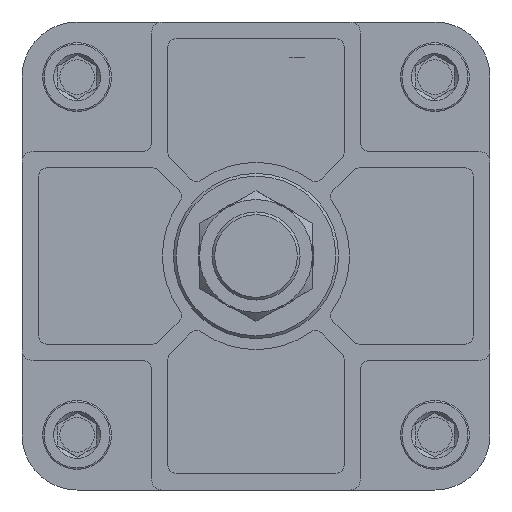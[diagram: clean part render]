
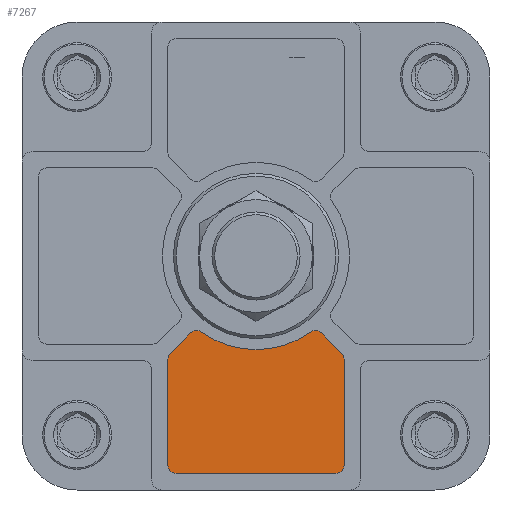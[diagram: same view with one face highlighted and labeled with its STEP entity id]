
A CAD part, front view. The second image highlights one B-rep face of the part: STEP entity #7267.
In plain terms, the highlighted planar face has unit normal (0, -1, 0).
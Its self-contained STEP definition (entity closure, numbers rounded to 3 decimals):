
#264=LINE('',#10013,#704);
#265=LINE('',#10022,#705);
#266=LINE('',#10026,#706);
#267=LINE('',#10030,#707);
#268=LINE('',#10034,#708);
#704=VECTOR('',#8298,1000.);
#705=VECTOR('',#8305,1000.);
#706=VECTOR('',#8308,1000.);
#707=VECTOR('',#8311,1000.);
#708=VECTOR('',#8314,1000.);
#1157=ORIENTED_EDGE('',*,*,#2686,.F.);
#1158=ORIENTED_EDGE('',*,*,#2687,.T.);
#1159=ORIENTED_EDGE('',*,*,#2688,.F.);
#1160=ORIENTED_EDGE('',*,*,#2689,.T.);
#1161=ORIENTED_EDGE('',*,*,#2690,.F.);
#1162=ORIENTED_EDGE('',*,*,#2691,.T.);
#1163=ORIENTED_EDGE('',*,*,#2692,.F.);
#1164=ORIENTED_EDGE('',*,*,#2693,.T.);
#1165=ORIENTED_EDGE('',*,*,#2694,.F.);
#1166=ORIENTED_EDGE('',*,*,#2695,.T.);
#1167=ORIENTED_EDGE('',*,*,#2696,.F.);
#1168=ORIENTED_EDGE('',*,*,#2697,.T.);
#2686=EDGE_CURVE('',#3453,#3454,#264,.T.);
#2687=EDGE_CURVE('',#3453,#3455,#3982,.F.);
#2688=EDGE_CURVE('',#3456,#3455,#3983,.T.);
#2689=EDGE_CURVE('',#3456,#3457,#3984,.F.);
#2690=EDGE_CURVE('',#3458,#3457,#265,.T.);
#2691=EDGE_CURVE('',#3458,#3459,#3985,.F.);
#2692=EDGE_CURVE('',#3460,#3459,#266,.T.);
#2693=EDGE_CURVE('',#3460,#3461,#3986,.F.);
#2694=EDGE_CURVE('',#3462,#3461,#267,.T.);
#2695=EDGE_CURVE('',#3462,#3463,#3987,.F.);
#2696=EDGE_CURVE('',#3464,#3463,#268,.T.);
#2697=EDGE_CURVE('',#3464,#3454,#3988,.F.);
#3453=VERTEX_POINT('',#10014);
#3454=VERTEX_POINT('',#10015);
#3455=VERTEX_POINT('',#10017);
#3456=VERTEX_POINT('',#10019);
#3457=VERTEX_POINT('',#10021);
#3458=VERTEX_POINT('',#10023);
#3459=VERTEX_POINT('',#10025);
#3460=VERTEX_POINT('',#10027);
#3461=VERTEX_POINT('',#10029);
#3462=VERTEX_POINT('',#10031);
#3463=VERTEX_POINT('',#10033);
#3464=VERTEX_POINT('',#10035);
#3982=CIRCLE('',#7635,3.);
#3983=CIRCLE('',#7636,34.);
#3984=CIRCLE('',#7637,3.);
#3985=CIRCLE('',#7638,3.);
#3986=CIRCLE('',#7639,3.);
#3987=CIRCLE('',#7640,3.);
#3988=CIRCLE('',#7641,3.);
#4285=EDGE_LOOP('',(#1157,#1158,#1159,#1160,#1161,#1162,#1163,#1164,#1165,
#1166,#1167,#1168));
#4729=FACE_BOUND('',#4285,.T.);
#5163=PLANE('',#7634);
#7267=ADVANCED_FACE('',(#4729),#5163,.F.);
#7634=AXIS2_PLACEMENT_3D('',#10012,#8296,#8297);
#7635=AXIS2_PLACEMENT_3D('',#10016,#8299,#8300);
#7636=AXIS2_PLACEMENT_3D('',#10018,#8301,#8302);
#7637=AXIS2_PLACEMENT_3D('',#10020,#8303,#8304);
#7638=AXIS2_PLACEMENT_3D('',#10024,#8306,#8307);
#7639=AXIS2_PLACEMENT_3D('',#10028,#8309,#8310);
#7640=AXIS2_PLACEMENT_3D('',#10032,#8312,#8313);
#7641=AXIS2_PLACEMENT_3D('',#10036,#8315,#8316);
#8296=DIRECTION('',(0.,1.,0.));
#8297=DIRECTION('',(0.,0.,1.));
#8298=DIRECTION('',(0.707,0.,-0.707));
#8299=DIRECTION('',(0.,1.,0.));
#8300=DIRECTION('',(0.,0.,1.));
#8301=DIRECTION('',(0.,-1.,0.));
#8302=DIRECTION('',(1.,0.,0.));
#8303=DIRECTION('',(0.,1.,0.));
#8304=DIRECTION('',(0.,0.,1.));
#8305=DIRECTION('',(0.707,0.,0.707));
#8306=DIRECTION('',(0.,1.,0.));
#8307=DIRECTION('',(0.,0.,1.));
#8308=DIRECTION('',(0.,0.,1.));
#8309=DIRECTION('',(0.,1.,0.));
#8310=DIRECTION('',(0.,0.,1.));
#8311=DIRECTION('',(-1.,0.,0.));
#8312=DIRECTION('',(0.,1.,0.));
#8313=DIRECTION('',(0.,0.,1.));
#8314=DIRECTION('',(0.,0.,-1.));
#8315=DIRECTION('',(0.,1.,0.));
#8316=DIRECTION('',(0.,0.,1.));
#10012=CARTESIAN_POINT('',(0.,-29.,0.));
#10013=CARTESIAN_POINT('',(21.827,-29.,-26.069));
#10014=CARTESIAN_POINT('',(23.695,-29.,-27.938));
#10015=CARTESIAN_POINT('',(31.121,-29.,-35.364));
#10016=CARTESIAN_POINT('',(21.574,-29.,-30.059));
#10017=CARTESIAN_POINT('',(19.825,-29.,-27.622));
#10018=CARTESIAN_POINT('',(0.,-29.,0.));
#10019=CARTESIAN_POINT('',(-19.825,-29.,-27.622));
#10020=CARTESIAN_POINT('',(-21.574,-29.,-30.059));
#10021=CARTESIAN_POINT('',(-23.695,-29.,-27.938));
#10022=CARTESIAN_POINT('',(-21.827,-29.,-26.069));
#10023=CARTESIAN_POINT('',(-31.121,-29.,-35.364));
#10024=CARTESIAN_POINT('',(-29.,-29.,-37.485));
#10025=CARTESIAN_POINT('',(-32.,-29.,-37.485));
#10026=CARTESIAN_POINT('',(-32.,-29.,-38.));
#10027=CARTESIAN_POINT('',(-32.,-29.,-76.));
#10028=CARTESIAN_POINT('',(-29.,-29.,-76.));
#10029=CARTESIAN_POINT('',(-29.,-29.,-79.));
#10030=CARTESIAN_POINT('',(-32.,-29.,-79.));
#10031=CARTESIAN_POINT('',(29.,-29.,-79.));
#10032=CARTESIAN_POINT('',(29.,-29.,-76.));
#10033=CARTESIAN_POINT('',(32.,-29.,-76.));
#10034=CARTESIAN_POINT('',(32.,-29.,-79.));
#10035=CARTESIAN_POINT('',(32.,-29.,-37.485));
#10036=CARTESIAN_POINT('',(29.,-29.,-37.485));
